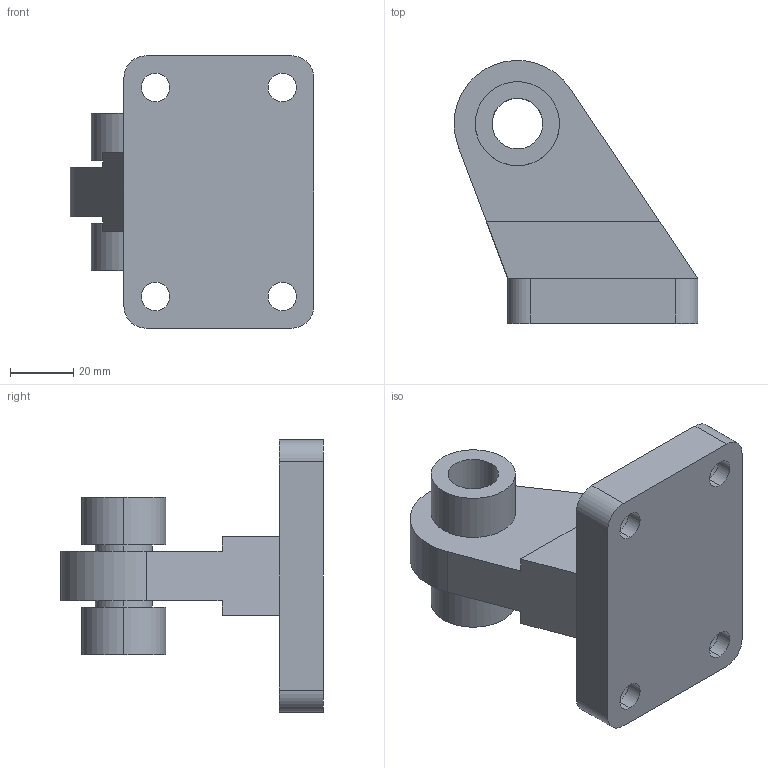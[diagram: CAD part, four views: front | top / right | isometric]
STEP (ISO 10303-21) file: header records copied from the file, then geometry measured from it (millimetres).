
FILE_DESCRIPTION (( 'STEP AP214' ), '1' );
FILE_NAME ('LNUI-S-080.STEP', '2013-09-11T13:09:07', ( '' ), ( '' ), 'SwSTEP 2.0', 'SolidWorks 2009', '' );
FILE_SCHEMA (( 'AUTOMOTIVE_DESIGN' ));
Length unit declared in the file: millimetre
Products named in the file (1): LNUI-S-080
Bounding box: 77 x 82.98 x 86 mm (x, y, z)
Volume: 131655.1 mm3; surface area: 30535.3 mm2
Topology: 1 solids, 1 shells, 54 faces, 128 edges, 84 vertices
Faces by surface type: cylinder 31, plane 23
Entity records: 1636 total; most frequent: DIRECTION 300, CARTESIAN_POINT 267, ORIENTED_EDGE 256, EDGE_CURVE 128, AXIS2_PLACEMENT_3D 117, VERTEX_POINT 84, EDGE_LOOP 72, VECTOR 66
